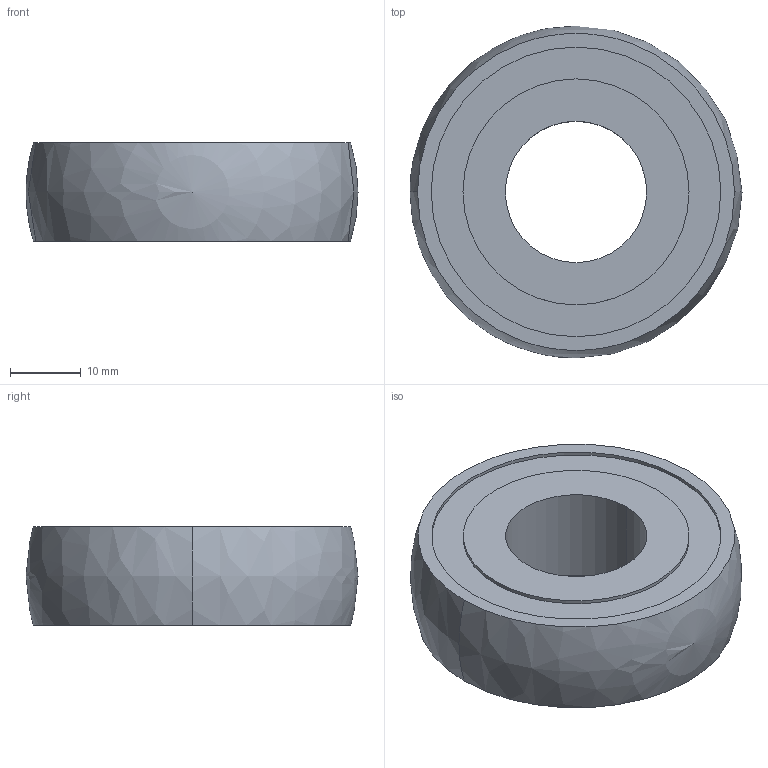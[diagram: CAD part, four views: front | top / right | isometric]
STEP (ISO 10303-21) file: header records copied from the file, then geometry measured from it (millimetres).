
FILE_DESCRIPTION (( 'STEP AP203' ), '1' );
FILE_NAME ('084.802.018.STEP', '2013-01-29T14:10:17', ( 'Alusic' ), ( 'Alusic' ), 'SwSTEP 2.0', 'SolidWorks 2011', '' );
FILE_SCHEMA (( 'CONFIG_CONTROL_DESIGN' ));
Length unit declared in the file: millimetre
Products named in the file (1): 084.802.018
Bounding box: 47 x 47 x 14 mm (x, y, z)
Volume: 16478.1 mm3; surface area: 12035.1 mm2
Topology: 2 solids, 3 shells, 38 faces, 81 edges, 49 vertices
Faces by surface type: cylinder 18, torus 10, plane 8, sphere 2
Entity records: 1091 total; most frequent: DIRECTION 212, CARTESIAN_POINT 161, ORIENTED_EDGE 152, AXIS2_PLACEMENT_3D 97, EDGE_CURVE 76, CIRCLE 58, EDGE_LOOP 46, VERTEX_POINT 46
